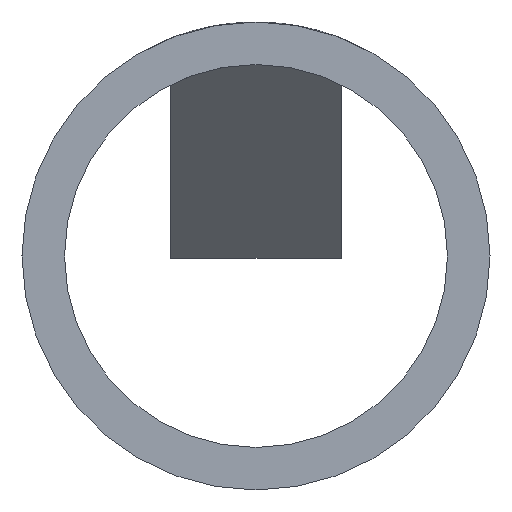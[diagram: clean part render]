
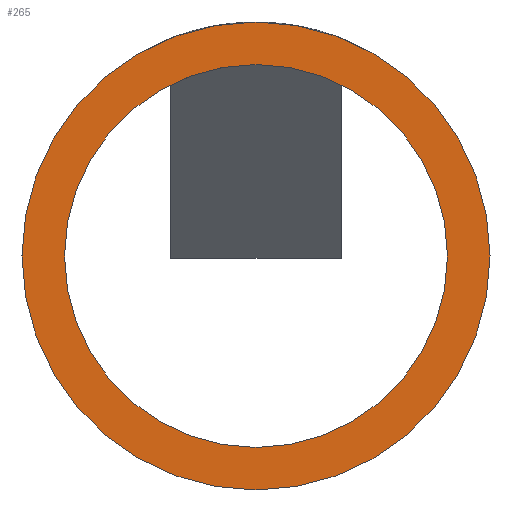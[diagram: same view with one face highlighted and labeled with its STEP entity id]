
A CAD part, front view. The second image highlights one B-rep face of the part: STEP entity #265.
In plain terms, the highlighted planar face has unit normal (0, -1, 0).
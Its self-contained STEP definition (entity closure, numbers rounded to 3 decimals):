
#3 = ORIENTED_EDGE ( 'NONE', *, *, #218, .F. ) ;
#19 = FACE_BOUND ( 'NONE', #148, .T. ) ;
#26 = CIRCLE ( 'NONE', #186, 5.5 ) ;
#49 = CIRCLE ( 'NONE', #210, 5.5 ) ;
#57 = FACE_OUTER_BOUND ( 'NONE', #79, .T. ) ;
#79 = EDGE_LOOP ( 'NONE', ( #102, #144 ) ) ;
#102 = ORIENTED_EDGE ( 'NONE', *, *, #233, .T. ) ;
#144 = ORIENTED_EDGE ( 'NONE', *, *, #197, .T. ) ;
#148 = EDGE_LOOP ( 'NONE', ( #155, #3 ) ) ;
#155 = ORIENTED_EDGE ( 'NONE', *, *, #212, .F. ) ;
#184 = CIRCLE ( 'NONE', #232, 4.5 ) ;
#185 = CIRCLE ( 'NONE', #220, 4.5 ) ;
#186 = AXIS2_PLACEMENT_3D ( 'NONE', #390, #447, #448 ) ;
#197 = EDGE_CURVE ( 'NONE', #348, #349, #26, .T. ) ;
#198 = AXIS2_PLACEMENT_3D ( 'NONE', #323, #321, #486 ) ;
#210 = AXIS2_PLACEMENT_3D ( 'NONE', #384, #398, #399 ) ;
#212 = EDGE_CURVE ( 'NONE', #311, #314, #184, .T. ) ;
#218 = EDGE_CURVE ( 'NONE', #314, #311, #185, .T. ) ;
#220 = AXIS2_PLACEMENT_3D ( 'NONE', #441, #351, #350 ) ;
#232 = AXIS2_PLACEMENT_3D ( 'NONE', #437, #435, #434 ) ;
#233 = EDGE_CURVE ( 'NONE', #349, #348, #49, .T. ) ;
#265 = ADVANCED_FACE ( 'NONE', ( #57, #19 ), #322, .T. ) ;
#311 = VERTEX_POINT ( 'NONE', #466 ) ;
#314 = VERTEX_POINT ( 'NONE', #444 ) ;
#321 = DIRECTION ( 'NONE',  ( 0., -1., 0. ) ) ;
#322 = PLANE ( 'NONE',  #198 ) ;
#323 = CARTESIAN_POINT ( 'NONE',  ( 0., 0., 0. ) ) ;
#348 = VERTEX_POINT ( 'NONE', #405 ) ;
#349 = VERTEX_POINT ( 'NONE', #404 ) ;
#350 = DIRECTION ( 'NONE',  ( -1., 0., 0. ) ) ;
#351 = DIRECTION ( 'NONE',  ( 0., -1., 0. ) ) ;
#384 = CARTESIAN_POINT ( 'NONE',  ( 0., 0., 0. ) ) ;
#390 = CARTESIAN_POINT ( 'NONE',  ( 0., 0., 0. ) ) ;
#398 = DIRECTION ( 'NONE',  ( 0., -1., 0. ) ) ;
#399 = DIRECTION ( 'NONE',  ( -1., 0., 0. ) ) ;
#404 = CARTESIAN_POINT ( 'NONE',  ( 5.5, 0., 0. ) ) ;
#405 = CARTESIAN_POINT ( 'NONE',  ( -5.5, 0., 0. ) ) ;
#434 = DIRECTION ( 'NONE',  ( -1., 0., 0. ) ) ;
#435 = DIRECTION ( 'NONE',  ( 0., -1., 0. ) ) ;
#437 = CARTESIAN_POINT ( 'NONE',  ( 0., 0., 0. ) ) ;
#441 = CARTESIAN_POINT ( 'NONE',  ( 0., 0., 0. ) ) ;
#444 = CARTESIAN_POINT ( 'NONE',  ( -4.5, 0., 0. ) ) ;
#447 = DIRECTION ( 'NONE',  ( 0., -1., 0. ) ) ;
#448 = DIRECTION ( 'NONE',  ( -1., 0., 0. ) ) ;
#466 = CARTESIAN_POINT ( 'NONE',  ( 4.5, 0., 0. ) ) ;
#486 = DIRECTION ( 'NONE',  ( -1., 0., 0. ) ) ;
